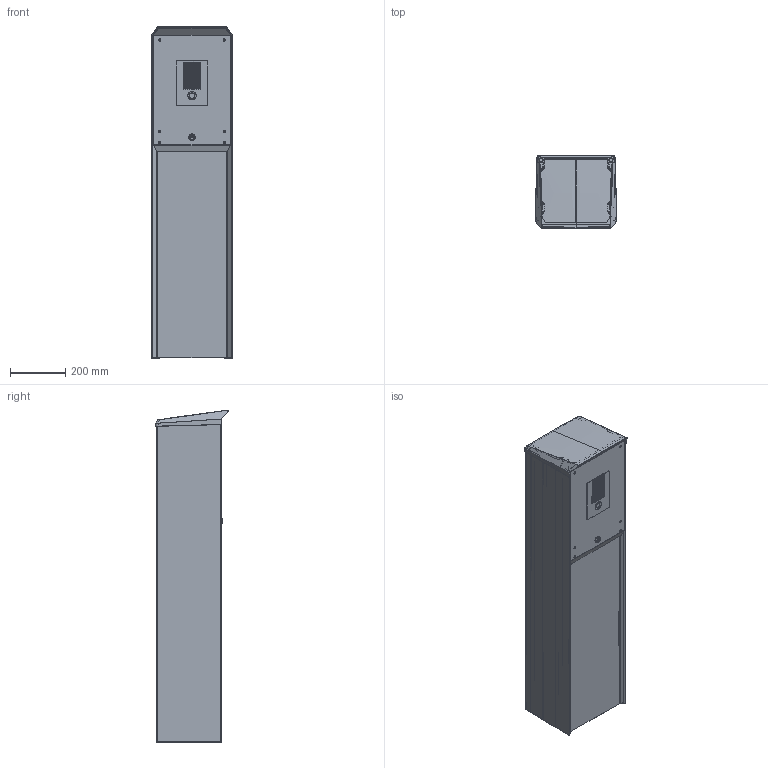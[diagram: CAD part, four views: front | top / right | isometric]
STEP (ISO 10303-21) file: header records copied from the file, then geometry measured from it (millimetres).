
FILE_DESCRIPTION(/* description */ ('Unknown'),/* implementation_level */ '2;1');
FILE_NAME(/* name */ '55860017_01',/* time_stamp */ '2023-03-07T07:17:07+01:00',/* author */ ('Unknown'),/* organization */ ('Unknown'),/* preprocessor_version */ 'ST-DEVELOPER v18.102',/* originating_system */ 'Solid Edge',/* authorisation */ 'Unknown');
FILE_SCHEMA (('AUTOMOTIVE_DESIGN {1 0 10303 214 3 1 1}'));
Products named in the file (30): 55860017; TERMINAL-MS-A000; TERMINAL-MS-A000-seitenwand_links_klein; TERMINAL-MS-A000-seitenwand_rechts_klein; TERMINAL-MS-A000-bedienfront; TERMINAL-MS-A000-rueckwand_klein; TERMINAL-MS-A000-unteres_frontblech_lang; TERMINAL-MS-A000-profilschutz_links; TERMINAL-MS-A000-profilschutz_rechts; TERMINAL-MS-A000-skiffy_raendelmutter_m6_141006069916; TERMINAL-MS-A000-deckel; TERMINAL-MS-A000-deckel0; TERMINAL_kvt_fhs_m6x12_1; TERMINAL_kvt_fhs_m6x12-oa2_1; TERMINAL_kvt_fhs_m6x12-oa3_1; TERMINAL_kvt_fhs_m6x12-oa4_1; TERMINAL_kvt_fhs_m6x12-oa5_1; TERMINAL_kvt_fhs_m6x12-oa6; TERMINAL_kvt_fhs_m6x15_1; TERMINAL_kvt_fhs_m6x15-oa7; 34865063; 33075008_1; TERMINAL-MS-A000-schloss_schranke_SCHLOSS; TERMINAL-MS-A00020585064; TERMINAL-MS-A00034685017; TERMINAL-MS-A00034680028a; TERMINAL-MS-A00034680028b; TERMINAL-MS-A00034680028c; TERMINAL-MS-A00034680028d; TERMINAL_Sprechanlage
Assembly tree (31 placements, depth 5):
  55860017
    TERMINAL-MS-A000
      TERMINAL-MS-A000-seitenwand_links_klein
      TERMINAL-MS-A000-seitenwand_rechts_klein
      TERMINAL-MS-A000-bedienfront
      TERMINAL-MS-A000-rueckwand_klein
      TERMINAL-MS-A000-unteres_frontblech_lang
      TERMINAL-MS-A000-profilschutz_links
      TERMINAL-MS-A000-profilschutz_rechts
      TERMINAL-MS-A000-skiffy_raendelmutter_m6_141006069916
      TERMINAL-MS-A000-deckel
        TERMINAL-MS-A000-deckel0
      TERMINAL_kvt_fhs_m6x12_1
      TERMINAL_kvt_fhs_m6x12-oa2_1
      TERMINAL_kvt_fhs_m6x12-oa3_1
      TERMINAL_kvt_fhs_m6x12-oa4_1
      TERMINAL_kvt_fhs_m6x12-oa5_1
      TERMINAL_kvt_fhs_m6x12-oa6
      TERMINAL_kvt_fhs_m6x15_1
      TERMINAL_kvt_fhs_m6x15-oa7
      34865063  x3
      33075008_1
      TERMINAL-MS-A000-schloss_schranke_SCHLOSS
        TERMINAL-MS-A00020585064
        TERMINAL-MS-A00034685017
          TERMINAL-MS-A00034680028a
          TERMINAL-MS-A00034680028b
          TERMINAL-MS-A00034680028c
          TERMINAL-MS-A00034680028d
    TERMINAL_Sprechanlage
Bounding box: 295.67 x 265.75 x 1201.62 mm (x, y, z)
Volume: 4491963.8 mm3; surface area: 3793598.9 mm2
Topology: 26 solids, 1110 shells, 2111 faces, 7697 edges, 6682 vertices
Faces by surface type: cylinder 825, plane 604, bspline 490, cone 87, torus 53, sphere 52
Full cylindrical faces by diameter (mm): 3 x2, 3.6 x4, 4.5 x4, 5 x1, 6 x25, 6.242 x1, 6.466 x3, 6.973 x8, 8 x6, 8.66 x1, 9 x4, 10 x3, 10.2 x1, 11.63 x3, 14.5 x1, 16 x1, 17 x1, 19 x1, 20 x2, 35 x1
Entity records: 130153 total; most frequent: CARTESIAN_POINT 59835, DIRECTION 12428, ORIENTED_EDGE 9756, EDGE_CURVE 7359, VERTEX_POINT 6576, AXIS2_PLACEMENT_3D 4795, LINE 2838, VECTOR 2838
